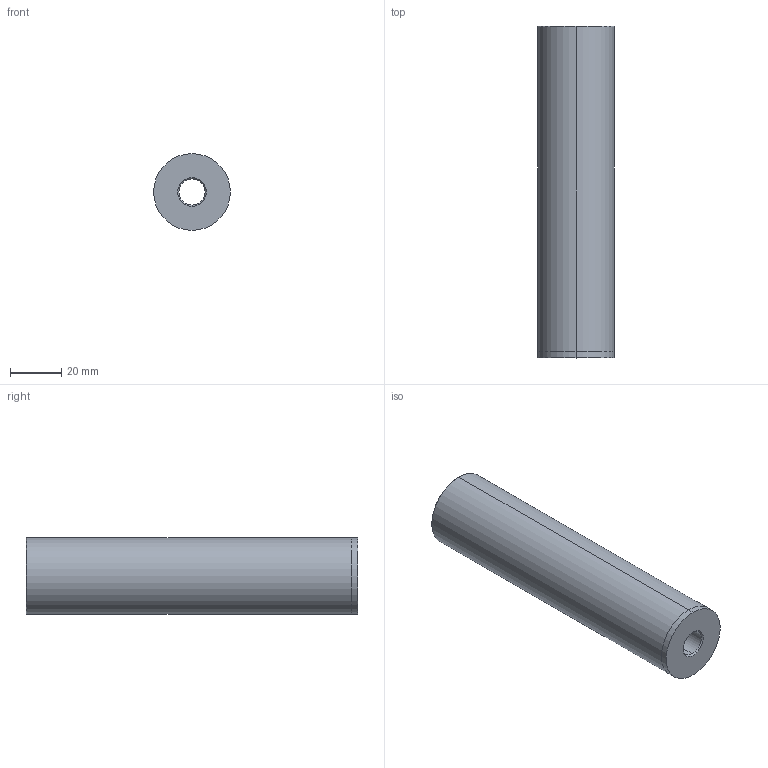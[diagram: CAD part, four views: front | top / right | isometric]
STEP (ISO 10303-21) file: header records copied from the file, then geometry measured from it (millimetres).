
FILE_DESCRIPTION (( 'STEP AP214' ), '1' );
FILE_NAME ('R05_30x130.STEP', '2020-03-20T00:02:45', ( '' ), ( '' ), 'SwSTEP 2.0', 'SolidWorks 2014', '' );
FILE_SCHEMA (( 'AUTOMOTIVE_DESIGN' ));
Length unit declared in the file: millimetre
Products named in the file (1): R05_30x130
Bounding box: 30.02 x 130 x 30.02 mm (x, y, z)
Volume: 32640.3 mm3; surface area: 23007.4 mm2
Topology: 1 solids, 1 shells, 19 faces, 38 edges, 22 vertices
Faces by surface type: cone 8, cylinder 8, plane 3
Entity records: 554 total; most frequent: DIRECTION 100, CARTESIAN_POINT 80, ORIENTED_EDGE 76, AXIS2_PLACEMENT_3D 42, EDGE_CURVE 38, EDGE_LOOP 22, VERTEX_POINT 22, CIRCLE 22
